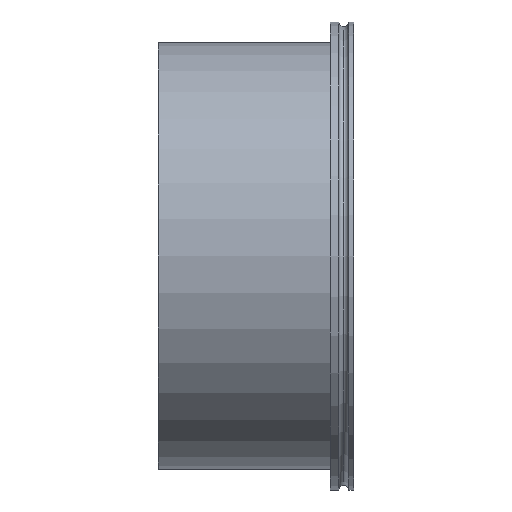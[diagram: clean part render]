
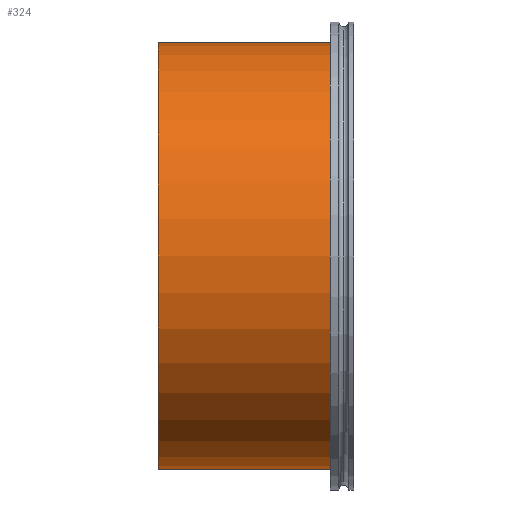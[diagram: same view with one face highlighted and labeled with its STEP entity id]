
A CAD part, left-side view. The second image highlights one B-rep face of the part: STEP entity #324.
In plain terms, the highlighted cylindrical face has radius 109.5 mm (diameter 219 mm), a partial arc.
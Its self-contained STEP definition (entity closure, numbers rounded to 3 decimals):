
#14 = DIRECTION ( 'NONE',  ( 0., -1., 0. ) ) ;
#36 = EDGE_LOOP ( 'NONE', ( #312, #328, #675, #136 ) ) ;
#70 = CARTESIAN_POINT ( 'NONE',  ( 0., 100., 0. ) ) ;
#72 = DIRECTION ( 'NONE',  ( 0., -1., 0. ) ) ;
#89 = VERTEX_POINT ( 'NONE', #264 ) ;
#99 = CIRCLE ( 'NONE', #288, 109.5 ) ;
#117 = CARTESIAN_POINT ( 'NONE',  ( 0., 8., 0. ) ) ;
#136 = ORIENTED_EDGE ( 'NONE', *, *, #334, .T. ) ;
#139 = LINE ( 'NONE', #386, #353 ) ;
#180 = EDGE_CURVE ( 'NONE', #640, #189, #563, .T. ) ;
#189 = VERTEX_POINT ( 'NONE', #394 ) ;
#223 = DIRECTION ( 'NONE',  ( 0., 0., 1. ) ) ;
#230 = DIRECTION ( 'NONE',  ( 0., -1., 0. ) ) ;
#264 = CARTESIAN_POINT ( 'NONE',  ( 0., 100., 109.5 ) ) ;
#274 = DIRECTION ( 'NONE',  ( 0., 1., 0. ) ) ;
#288 = AXIS2_PLACEMENT_3D ( 'NONE', #117, #274, #223 ) ;
#295 = VERTEX_POINT ( 'NONE', #333 ) ;
#298 = EDGE_CURVE ( 'NONE', #89, #295, #139, .T. ) ;
#303 = CARTESIAN_POINT ( 'NONE',  ( 0., 100., -109.5 ) ) ;
#312 = ORIENTED_EDGE ( 'NONE', *, *, #298, .F. ) ;
#324 = ADVANCED_FACE ( 'NONE', ( #679 ), #630, .T. ) ;
#328 = ORIENTED_EDGE ( 'NONE', *, *, #695, .F. ) ;
#331 = CIRCLE ( 'NONE', #572, 109.5 ) ;
#333 = CARTESIAN_POINT ( 'NONE',  ( 0., 8., 109.5 ) ) ;
#334 = EDGE_CURVE ( 'NONE', #189, #295, #99, .T. ) ;
#353 = VECTOR ( 'NONE', #72, 1000. ) ;
#367 = AXIS2_PLACEMENT_3D ( 'NONE', #70, #230, #605 ) ;
#386 = CARTESIAN_POINT ( 'NONE',  ( 0., 100., 109.5 ) ) ;
#394 = CARTESIAN_POINT ( 'NONE',  ( 0., 8., -109.5 ) ) ;
#432 = DIRECTION ( 'NONE',  ( 0., 1., 0. ) ) ;
#553 = DIRECTION ( 'NONE',  ( 0., 0., 1. ) ) ;
#563 = LINE ( 'NONE', #667, #606 ) ;
#572 = AXIS2_PLACEMENT_3D ( 'NONE', #653, #432, #553 ) ;
#605 = DIRECTION ( 'NONE',  ( 0., 0., -1. ) ) ;
#606 = VECTOR ( 'NONE', #14, 1000. ) ;
#630 = CYLINDRICAL_SURFACE ( 'NONE', #367, 109.5 ) ;
#640 = VERTEX_POINT ( 'NONE', #303 ) ;
#653 = CARTESIAN_POINT ( 'NONE',  ( 0., 100., 0. ) ) ;
#667 = CARTESIAN_POINT ( 'NONE',  ( 0., 100., -109.5 ) ) ;
#675 = ORIENTED_EDGE ( 'NONE', *, *, #180, .T. ) ;
#679 = FACE_OUTER_BOUND ( 'NONE', #36, .T. ) ;
#695 = EDGE_CURVE ( 'NONE', #640, #89, #331, .T. ) ;
